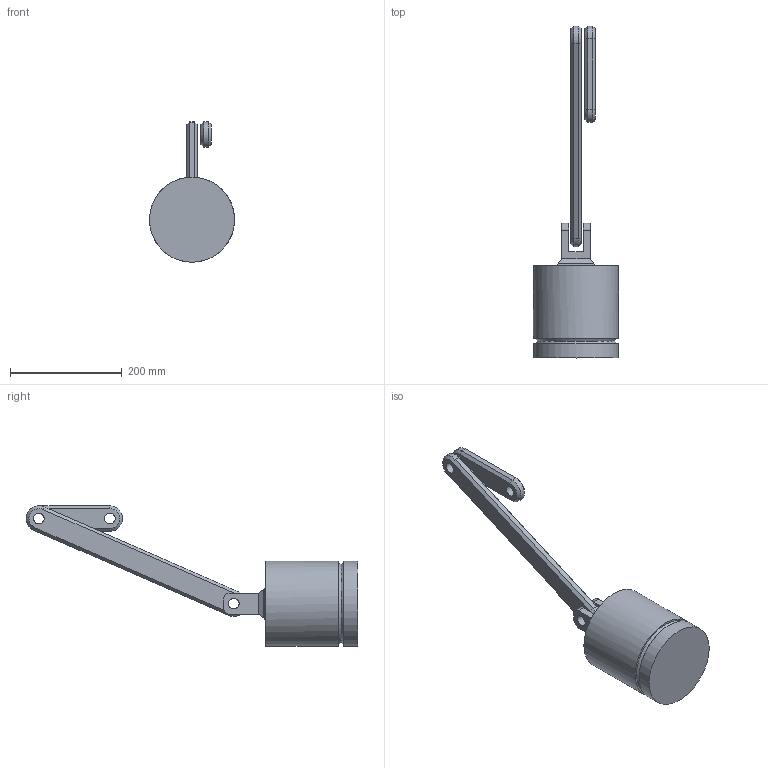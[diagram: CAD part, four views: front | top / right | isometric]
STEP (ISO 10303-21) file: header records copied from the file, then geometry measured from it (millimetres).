
FILE_DESCRIPTION((''),'2;1');
FILE_NAME('E:\Tutorials\New Piston Model\Piston.stp','2009-11-05T09:04:52',('stefanj'),(''),'Autodesk Inventor 2010','Autodesk Inventor 2010','');
FILE_SCHEMA(('CONFIG_CONTROL_DESIGN'));
Length unit declared in the file: inch
Products named in the file (4): Piston; Arm; Crank
Assembly tree (3 placements, depth 2):
  Piston
    Piston
    Arm
    Crank
Bounding box: 152.4 x 594.3 x 251.46 mm (x, y, z)
Volume: 3542635.6 mm3; surface area: 204952.3 mm2
Topology: 3 solids, 3 shells, 63 faces, 139 edges, 85 vertices
Faces by surface type: plane 37, cylinder 16, cone 10
Full cylindrical faces by diameter (mm): 19.05 x6, 152.4 x2
Entity records: 1836 total; most frequent: DIRECTION 310, CARTESIAN_POINT 280, ORIENTED_EDGE 254, EDGE_CURVE 127, AXIS2_PLACEMENT_3D 113, EDGE_LOOP 88, VECTOR 84, LINE 84
